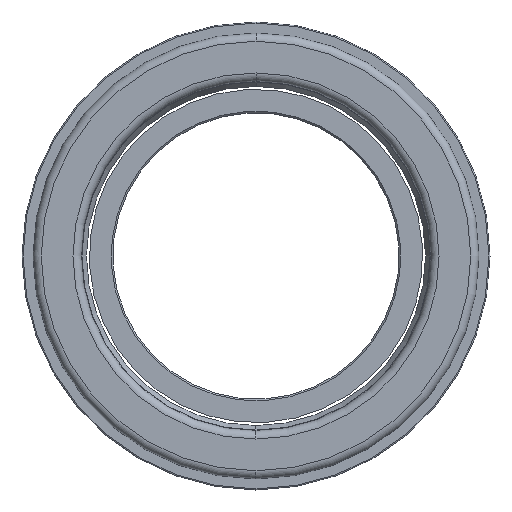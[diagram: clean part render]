
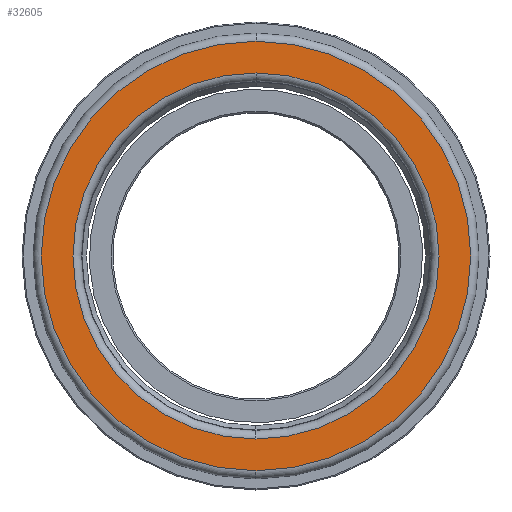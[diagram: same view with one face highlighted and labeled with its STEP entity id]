
A CAD part, left-side view. The second image highlights one B-rep face of the part: STEP entity #32605.
In plain terms, the highlighted planar face has unit normal (-1, 0, 0).
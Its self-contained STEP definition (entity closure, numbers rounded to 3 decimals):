
#441 = ORIENTED_EDGE ( 'NONE', *, *, #19263, .T. ) ;
#3349 = CARTESIAN_POINT ( 'NONE',  ( 0., 0., 0. ) ) ;
#7113 = DIRECTION ( 'NONE',  ( 0., 0., 1. ) ) ;
#7453 = ORIENTED_EDGE ( 'NONE', *, *, #26366, .T. ) ;
#8177 = VERTEX_POINT ( 'NONE', #26732 ) ;
#8352 = VERTEX_POINT ( 'NONE', #39180 ) ;
#11944 = CIRCLE ( 'NONE', #20731, 33.25 ) ;
#11985 = VERTEX_POINT ( 'NONE', #38122 ) ;
#13754 = DIRECTION ( 'NONE',  ( 1., 0., 0. ) ) ;
#14595 = CARTESIAN_POINT ( 'NONE',  ( 0., 0., 0. ) ) ;
#14829 = CIRCLE ( 'NONE', #29642, 33.25 ) ;
#17145 = CARTESIAN_POINT ( 'NONE',  ( 0., 0., 0. ) ) ;
#17576 = FACE_OUTER_BOUND ( 'NONE', #19293, .T. ) ;
#18037 = DIRECTION ( 'NONE',  ( 0., 0., -1. ) ) ;
#18364 = DIRECTION ( 'NONE',  ( 0., 0., 1. ) ) ;
#19037 = ORIENTED_EDGE ( 'NONE', *, *, #21930, .F. ) ;
#19263 = EDGE_CURVE ( 'NONE', #11985, #8352, #32988, .T. ) ;
#19293 = EDGE_LOOP ( 'NONE', ( #441, #7453 ) ) ;
#19535 = CARTESIAN_POINT ( 'NONE',  ( 0., 0., 0. ) ) ;
#20009 = AXIS2_PLACEMENT_3D ( 'NONE', #3349, #29456, #7113 ) ;
#20731 = AXIS2_PLACEMENT_3D ( 'NONE', #19535, #45591, #23287 ) ;
#20929 = DIRECTION ( 'NONE',  ( 0., 0., 1. ) ) ;
#21930 = EDGE_CURVE ( 'NONE', #8177, #34705, #14829, .T. ) ;
#23287 = DIRECTION ( 'NONE',  ( 0., 0., 1. ) ) ;
#26366 = EDGE_CURVE ( 'NONE', #8352, #11985, #48372, .T. ) ;
#26732 = CARTESIAN_POINT ( 'NONE',  ( 0., 0., 33.25 ) ) ;
#27521 = FACE_BOUND ( 'NONE', #48275, .T. ) ;
#27714 = ORIENTED_EDGE ( 'NONE', *, *, #27862, .F. ) ;
#27862 = EDGE_CURVE ( 'NONE', #34705, #8177, #11944, .T. ) ;
#29456 = DIRECTION ( 'NONE',  ( -1., 0., 0. ) ) ;
#29642 = AXIS2_PLACEMENT_3D ( 'NONE', #14595, #40646, #18364 ) ;
#32605 = ADVANCED_FACE ( 'NONE', ( #27521, #17576 ), #40313, .F. ) ;
#32988 = CIRCLE ( 'NONE', #45945, 39. ) ;
#34705 = VERTEX_POINT ( 'NONE', #43219 ) ;
#36568 = CARTESIAN_POINT ( 'NONE',  ( 0., 39., 0. ) ) ;
#38122 = CARTESIAN_POINT ( 'NONE',  ( 0., 0., 39. ) ) ;
#39180 = CARTESIAN_POINT ( 'NONE',  ( 0., 0., -39. ) ) ;
#40313 = PLANE ( 'NONE',  #43820 ) ;
#40646 = DIRECTION ( 'NONE',  ( -1., 0., 0. ) ) ;
#43193 = DIRECTION ( 'NONE',  ( -1., 0., 0. ) ) ;
#43219 = CARTESIAN_POINT ( 'NONE',  ( 0., 0., -33.25 ) ) ;
#43820 = AXIS2_PLACEMENT_3D ( 'NONE', #36568, #13754, #18037 ) ;
#45591 = DIRECTION ( 'NONE',  ( -1., 0., 0. ) ) ;
#45945 = AXIS2_PLACEMENT_3D ( 'NONE', #17145, #43193, #20929 ) ;
#48275 = EDGE_LOOP ( 'NONE', ( #19037, #27714 ) ) ;
#48372 = CIRCLE ( 'NONE', #20009, 39. ) ;
